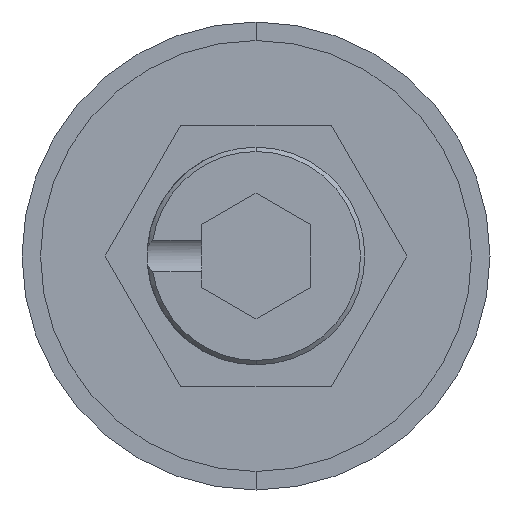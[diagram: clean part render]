
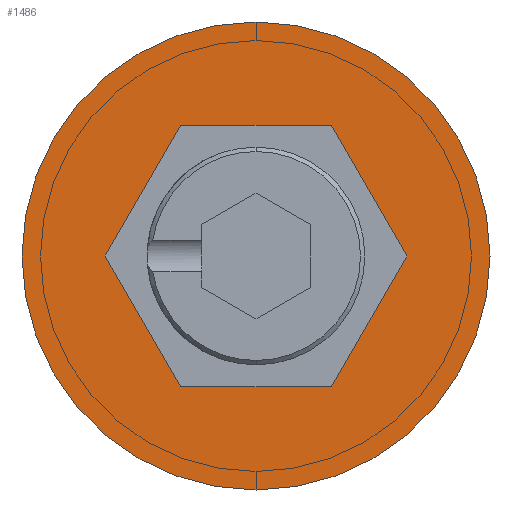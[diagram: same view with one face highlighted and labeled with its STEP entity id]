
A CAD part, front view. The second image highlights one B-rep face of the part: STEP entity #1486.
In plain terms, the highlighted planar face has unit normal (0, -1, 0).
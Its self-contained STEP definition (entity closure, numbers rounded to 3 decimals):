
#58 = ORIENTED_EDGE ( 'NONE', *, *, #964, .F. ) ;
#162 = CARTESIAN_POINT ( 'NONE',  ( 0., 0., 0. ) ) ;
#220 = DIRECTION ( 'NONE',  ( 0., -1., 0. ) ) ;
#245 = DIRECTION ( 'NONE',  ( 0.5, 0., -0.866 ) ) ;
#251 = LINE ( 'NONE', #1583, #287 ) ;
#287 = VECTOR ( 'NONE', #1378, 1000. ) ;
#288 = VECTOR ( 'NONE', #869, 1000. ) ;
#310 = DIRECTION ( 'NONE',  ( -0.5, 0., 0.866 ) ) ;
#399 = LINE ( 'NONE', #881, #1238 ) ;
#436 = EDGE_CURVE ( 'NONE', #867, #1509, #1651, .T. ) ;
#487 = CARTESIAN_POINT ( 'NONE',  ( -6.928, 0., 0. ) ) ;
#507 = VERTEX_POINT ( 'NONE', #1997 ) ;
#562 = CARTESIAN_POINT ( 'NONE',  ( 6.928, 0., 0. ) ) ;
#637 = ORIENTED_EDGE ( 'NONE', *, *, #921, .F. ) ;
#655 = FACE_BOUND ( 'NONE', #1628, .T. ) ;
#688 = CARTESIAN_POINT ( 'NONE',  ( 0., 0., 0. ) ) ;
#725 = CARTESIAN_POINT ( 'NONE',  ( 0., 0., 0. ) ) ;
#737 = EDGE_CURVE ( 'NONE', #743, #2146, #251, .T. ) ;
#742 = VERTEX_POINT ( 'NONE', #906 ) ;
#743 = VERTEX_POINT ( 'NONE', #878 ) ;
#751 = AXIS2_PLACEMENT_3D ( 'NONE', #162, #1182, #2189 ) ;
#765 = CARTESIAN_POINT ( 'NONE',  ( 3.464, 0., 6. ) ) ;
#799 = EDGE_CURVE ( 'NONE', #507, #743, #2198, .T. ) ;
#837 = ORIENTED_EDGE ( 'NONE', *, *, #2076, .F. ) ;
#860 = CARTESIAN_POINT ( 'NONE',  ( 0., 0., -10.75 ) ) ;
#866 = VERTEX_POINT ( 'NONE', #1015 ) ;
#867 = VERTEX_POINT ( 'NONE', #860 ) ;
#869 = DIRECTION ( 'NONE',  ( -1., 0., 0. ) ) ;
#878 = CARTESIAN_POINT ( 'NONE',  ( -3.464, 0., 6. ) ) ;
#881 = CARTESIAN_POINT ( 'NONE',  ( 3.464, 0., -6. ) ) ;
#902 = DIRECTION ( 'NONE',  ( 0., -1., 0. ) ) ;
#906 = CARTESIAN_POINT ( 'NONE',  ( -3.464, 0., -6. ) ) ;
#914 = DIRECTION ( 'NONE',  ( 0.5, 0., 0.866 ) ) ;
#920 = DIRECTION ( 'NONE',  ( 0., 0., -1. ) ) ;
#921 = EDGE_CURVE ( 'NONE', #866, #1407, #399, .T. ) ;
#932 = VECTOR ( 'NONE', #245, 1000. ) ;
#964 = EDGE_CURVE ( 'NONE', #742, #866, #1185, .T. ) ;
#979 = CARTESIAN_POINT ( 'NONE',  ( -6.928, 0., 0. ) ) ;
#1015 = CARTESIAN_POINT ( 'NONE',  ( 3.464, 0., -6. ) ) ;
#1020 = AXIS2_PLACEMENT_3D ( 'NONE', #725, #902, #920 ) ;
#1051 = VECTOR ( 'NONE', #310, 1000. ) ;
#1060 = EDGE_CURVE ( 'NONE', #1509, #867, #1880, .T. ) ;
#1065 = CARTESIAN_POINT ( 'NONE',  ( 0., 0., 10.75 ) ) ;
#1143 = VECTOR ( 'NONE', #1155, 1000. ) ;
#1155 = DIRECTION ( 'NONE',  ( 1., 0., 0. ) ) ;
#1182 = DIRECTION ( 'NONE',  ( 0., -1., 0. ) ) ;
#1185 = LINE ( 'NONE', #1445, #1143 ) ;
#1238 = VECTOR ( 'NONE', #914, 1000. ) ;
#1256 = ORIENTED_EDGE ( 'NONE', *, *, #799, .F. ) ;
#1287 = ORIENTED_EDGE ( 'NONE', *, *, #1585, .F. ) ;
#1317 = ORIENTED_EDGE ( 'NONE', *, *, #1060, .T. ) ;
#1359 = ORIENTED_EDGE ( 'NONE', *, *, #436, .T. ) ;
#1378 = DIRECTION ( 'NONE',  ( -0.5, 0., -0.866 ) ) ;
#1407 = VERTEX_POINT ( 'NONE', #562 ) ;
#1445 = CARTESIAN_POINT ( 'NONE',  ( -3.464, 0., -6. ) ) ;
#1485 = FACE_OUTER_BOUND ( 'NONE', #1891, .T. ) ;
#1486 = ADVANCED_FACE ( 'NONE', ( #655, #1485 ), #1883, .T. ) ;
#1498 = LINE ( 'NONE', #1638, #1051 ) ;
#1509 = VERTEX_POINT ( 'NONE', #1065 ) ;
#1583 = CARTESIAN_POINT ( 'NONE',  ( -3.464, 0., 6. ) ) ;
#1585 = EDGE_CURVE ( 'NONE', #2146, #742, #1834, .T. ) ;
#1628 = EDGE_LOOP ( 'NONE', ( #58, #1287, #1694, #1256, #837, #637 ) ) ;
#1638 = CARTESIAN_POINT ( 'NONE',  ( 6.928, 0., 0. ) ) ;
#1651 = CIRCLE ( 'NONE', #751, 10.75 ) ;
#1694 = ORIENTED_EDGE ( 'NONE', *, *, #737, .F. ) ;
#1712 = DIRECTION ( 'NONE',  ( 0., 0., -1. ) ) ;
#1834 = LINE ( 'NONE', #979, #932 ) ;
#1880 = CIRCLE ( 'NONE', #2022, 10.75 ) ;
#1883 = PLANE ( 'NONE',  #1020 ) ;
#1891 = EDGE_LOOP ( 'NONE', ( #1359, #1317 ) ) ;
#1997 = CARTESIAN_POINT ( 'NONE',  ( 3.464, 0., 6. ) ) ;
#2022 = AXIS2_PLACEMENT_3D ( 'NONE', #688, #220, #1712 ) ;
#2076 = EDGE_CURVE ( 'NONE', #1407, #507, #1498, .T. ) ;
#2146 = VERTEX_POINT ( 'NONE', #487 ) ;
#2189 = DIRECTION ( 'NONE',  ( 0., 0., -1. ) ) ;
#2198 = LINE ( 'NONE', #765, #288 ) ;
